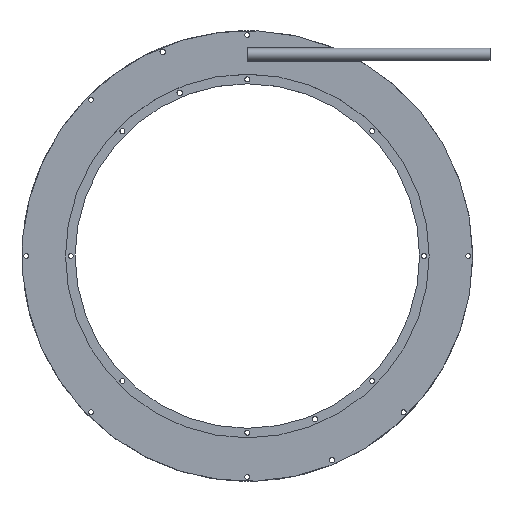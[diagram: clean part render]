
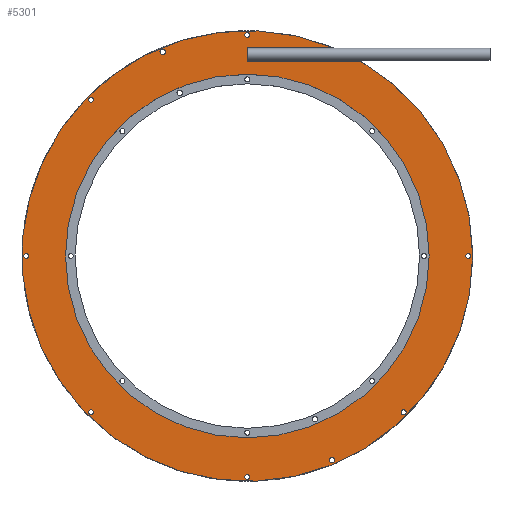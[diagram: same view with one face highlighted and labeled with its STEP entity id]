
A CAD part, top view. The second image highlights one B-rep face of the part: STEP entity #5301.
In plain terms, the highlighted planar face has unit normal (0, 0, 1) as drawn and (0, 0, -1) by its records, which use the part's own axes.
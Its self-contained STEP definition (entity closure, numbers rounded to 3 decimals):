
#5301=ADVANCED_FACE('',(#10651,#10653,#10655,#10657,#10659,#10661,#10663,#10665,
#10667,#10669,#10671),#10673,.F.);
#10651=FACE_BOUND('',#10652,.T.);
#10652=EDGE_LOOP('',(#15485,#15486,#15487,#15488,#15489));
#10653=FACE_BOUND('',#10654,.T.);
#10654=EDGE_LOOP('',(#15490));
#10655=FACE_BOUND('',#10656,.T.);
#10656=EDGE_LOOP('',(#15491));
#10657=FACE_BOUND('',#10658,.T.);
#10658=EDGE_LOOP('',(#15492));
#10659=FACE_BOUND('',#10660,.T.);
#10660=EDGE_LOOP('',(#15493));
#10661=FACE_BOUND('',#10662,.T.);
#10662=EDGE_LOOP('',(#15494));
#10663=FACE_BOUND('',#10664,.T.);
#10664=EDGE_LOOP('',(#15495));
#10665=FACE_BOUND('',#10666,.T.);
#10666=EDGE_LOOP('',(#15496));
#10667=FACE_BOUND('',#10668,.T.);
#10668=EDGE_LOOP('',(#15497));
#10669=FACE_BOUND('',#10670,.T.);
#10670=EDGE_LOOP('',(#15498));
#10671=FACE_BOUND('',#10672,.T.);
#10672=EDGE_LOOP('',(#15499));
#10673=PLANE('',#10674);
#10674=AXIS2_PLACEMENT_3D('',#10675,#10676,#10677);
#10675=CARTESIAN_POINT('',(0.,0.,0.));
#10676=DIRECTION('',(0.,0.,1.));
#10677=DIRECTION('',(-1.,0.,0.));
#15485=ORIENTED_EDGE('',*,*,#17974,.T.);
#15486=ORIENTED_EDGE('',*,*,#17968,.T.);
#15487=ORIENTED_EDGE('',*,*,#17975,.T.);
#15488=ORIENTED_EDGE('',*,*,#17976,.F.);
#15489=ORIENTED_EDGE('',*,*,#17977,.F.);
#15490=ORIENTED_EDGE('',*,*,#17978,.T.);
#15491=ORIENTED_EDGE('',*,*,#17979,.T.);
#15492=ORIENTED_EDGE('',*,*,#17980,.T.);
#15493=ORIENTED_EDGE('',*,*,#17981,.T.);
#15494=ORIENTED_EDGE('',*,*,#17982,.T.);
#15495=ORIENTED_EDGE('',*,*,#17983,.T.);
#15496=ORIENTED_EDGE('',*,*,#17984,.T.);
#15497=ORIENTED_EDGE('',*,*,#17985,.T.);
#15498=ORIENTED_EDGE('',*,*,#17986,.T.);
#15499=ORIENTED_EDGE('',*,*,#17987,.T.);
#17968=EDGE_CURVE('',#21778,#21779,#21780,.T.);
#17974=EDGE_CURVE('',#21790,#21778,#21791,.T.);
#17975=EDGE_CURVE('',#21779,#21792,#21793,.T.);
#17976=EDGE_CURVE('',#21794,#21792,#21795,.T.);
#17977=EDGE_CURVE('',#21790,#21794,#21796,.T.);
#17978=EDGE_CURVE('',#21797,#21797,#21798,.T.);
#17979=EDGE_CURVE('',#21799,#21799,#21800,.T.);
#17980=EDGE_CURVE('',#21801,#21801,#21802,.T.);
#17981=EDGE_CURVE('',#21803,#21803,#21804,.T.);
#17982=EDGE_CURVE('',#21805,#21805,#21806,.T.);
#17983=EDGE_CURVE('',#21807,#21807,#21808,.T.);
#17984=EDGE_CURVE('',#21809,#21809,#21810,.T.);
#17985=EDGE_CURVE('',#21811,#21811,#21812,.T.);
#17986=EDGE_CURVE('',#21813,#21813,#21814,.T.);
#17987=EDGE_CURVE('',#21815,#21815,#21816,.T.);
#21778=VERTEX_POINT('',#30826);
#21779=VERTEX_POINT('',#30827);
#21780=LINE('',#30828,#30829);
#21790=VERTEX_POINT('',#30852);
#21791=LINE('',#30853,#30854);
#21792=VERTEX_POINT('',#30856);
#21793=LINE('',#30857,#30858);
#21794=VERTEX_POINT('',#30860);
#21795=CIRCLE('',#30861,130.);
#21796=CIRCLE('',#30865,130.);
#21797=VERTEX_POINT('',#30869);
#21798=CIRCLE('',#30870,1.45);
#21799=VERTEX_POINT('',#30874);
#21800=CIRCLE('',#30875,1.45);
#21801=VERTEX_POINT('',#30879);
#21802=CIRCLE('',#30880,1.45);
#21803=VERTEX_POINT('',#30884);
#21804=CIRCLE('',#30885,1.45);
#21805=VERTEX_POINT('',#30889);
#21806=CIRCLE('',#30890,1.45);
#21807=VERTEX_POINT('',#30894);
#21808=CIRCLE('',#30895,1.45);
#21809=VERTEX_POINT('',#30899);
#21810=CIRCLE('',#30900,1.45);
#21811=VERTEX_POINT('',#30904);
#21812=CIRCLE('',#30905,1.6);
#21813=VERTEX_POINT('',#30909);
#21814=CIRCLE('',#30910,1.6);
#21815=VERTEX_POINT('',#30914);
#21816=CIRCLE('',#30915,104.9);
#30826=CARTESIAN_POINT('',(0.,112.3,0.));
#30827=CARTESIAN_POINT('',(0.,120.3,0.));
#30828=CARTESIAN_POINT('',(0.,112.3,0.));
#30829=VECTOR('',#30830,1.);
#30830=DIRECTION('',(0.,1.,0.));
#30852=CARTESIAN_POINT('',(-65.488,112.3,0.));
#30853=CARTESIAN_POINT('',(-65.488,112.3,0.));
#30854=VECTOR('',#30855,1.);
#30855=DIRECTION('',(1.,0.,0.));
#30856=CARTESIAN_POINT('',(-49.274,120.3,0.));
#30857=CARTESIAN_POINT('',(0.,120.3,0.));
#30858=VECTOR('',#30859,1.);
#30859=DIRECTION('',(-1.,0.,0.));
#30860=CARTESIAN_POINT('',(-130.,0.,0.));
#30861=AXIS2_PLACEMENT_3D('',#30862,#30863,#30864);
#30862=CARTESIAN_POINT('',(0.,0.,0.));
#30863=DIRECTION('',(0.,0.,1.));
#30864=DIRECTION('',(-1.,0.,0.));
#30865=AXIS2_PLACEMENT_3D('',#30866,#30867,#30868);
#30866=CARTESIAN_POINT('',(0.,0.,0.));
#30867=DIRECTION('',(0.,0.,1.));
#30868=DIRECTION('',(-0.504,0.864,0.));
#30869=CARTESIAN_POINT('',(-128.95,0.,0.));
#30870=AXIS2_PLACEMENT_3D('',#30871,#30872,#30873);
#30871=CARTESIAN_POINT('',(-127.5,0.,0.));
#30872=DIRECTION('',(0.,0.,1.));
#30873=DIRECTION('',(-1.,0.,0.));
#30874=CARTESIAN_POINT('',(126.05,0.,0.));
#30875=AXIS2_PLACEMENT_3D('',#30876,#30877,#30878);
#30876=CARTESIAN_POINT('',(127.5,0.,0.));
#30877=DIRECTION('',(0.,0.,1.));
#30878=DIRECTION('',(-1.,0.,0.));
#30879=CARTESIAN_POINT('',(-1.45,127.5,0.));
#30880=AXIS2_PLACEMENT_3D('',#30881,#30882,#30883);
#30881=CARTESIAN_POINT('',(0.,127.5,0.));
#30882=DIRECTION('',(0.,0.,1.));
#30883=DIRECTION('',(-1.,0.,0.));
#30884=CARTESIAN_POINT('',(-1.45,-127.5,0.));
#30885=AXIS2_PLACEMENT_3D('',#30886,#30887,#30888);
#30886=CARTESIAN_POINT('',(0.,-127.5,0.));
#30887=DIRECTION('',(0.,0.,1.));
#30888=DIRECTION('',(-1.,0.,0.));
#30889=CARTESIAN_POINT('',(88.706,90.156,0.));
#30890=AXIS2_PLACEMENT_3D('',#30891,#30892,#30893);
#30891=CARTESIAN_POINT('',(90.156,90.156,0.));
#30892=DIRECTION('',(0.,0.,1.));
#30893=DIRECTION('',(-1.,0.,0.));
#30894=CARTESIAN_POINT('',(-91.606,-90.156,0.));
#30895=AXIS2_PLACEMENT_3D('',#30896,#30897,#30898);
#30896=CARTESIAN_POINT('',(-90.156,-90.156,0.));
#30897=DIRECTION('',(0.,0.,1.));
#30898=DIRECTION('',(-1.,0.,0.));
#30899=CARTESIAN_POINT('',(88.706,-90.156,0.));
#30900=AXIS2_PLACEMENT_3D('',#30901,#30902,#30903);
#30901=CARTESIAN_POINT('',(90.156,-90.156,0.));
#30902=DIRECTION('',(0.,0.,1.));
#30903=DIRECTION('',(-1.,0.,0.));
#30904=CARTESIAN_POINT('',(-50.392,-117.795,0.));
#30905=AXIS2_PLACEMENT_3D('',#30906,#30907,#30908);
#30906=CARTESIAN_POINT('',(-48.792,-117.795,0.));
#30907=DIRECTION('',(0.,0.,1.));
#30908=DIRECTION('',(-1.,0.,0.));
#30909=CARTESIAN_POINT('',(47.192,117.795,0.));
#30910=AXIS2_PLACEMENT_3D('',#30911,#30912,#30913);
#30911=CARTESIAN_POINT('',(48.792,117.795,0.));
#30912=DIRECTION('',(0.,0.,1.));
#30913=DIRECTION('',(-1.,0.,0.));
#30914=CARTESIAN_POINT('',(-104.9,0.,0.));
#30915=AXIS2_PLACEMENT_3D('',#30916,#30917,#30918);
#30916=CARTESIAN_POINT('',(0.,0.,0.));
#30917=DIRECTION('',(0.,0.,1.));
#30918=DIRECTION('',(-1.,0.,0.));
